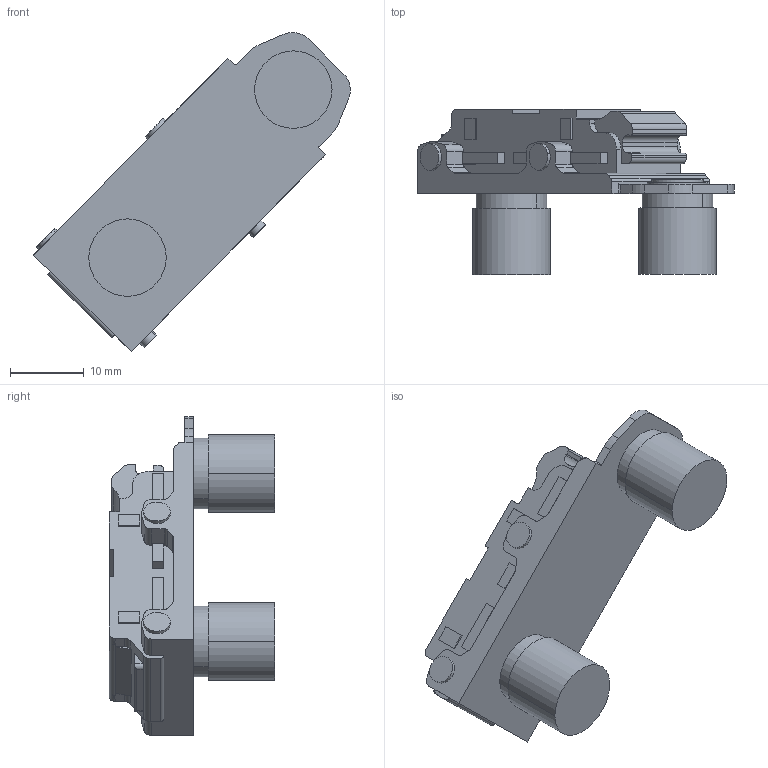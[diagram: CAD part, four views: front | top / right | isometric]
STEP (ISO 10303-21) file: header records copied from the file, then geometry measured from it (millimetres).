
FILE_DESCRIPTION (( 'STEP AP203' ), '1' );
FILE_NAME ('82H2MYQ-DTC 3D.STEP', '2024-07-11T02:26:15', ( '微软用户' ), ( '微软中国' ), 'SwSTEP 2.0', 'SolidWorks 2021', '' );
FILE_SCHEMA (( 'CONFIG_CONTROL_DESIGN' ));
Length unit declared in the file: millimetre
Products named in the file (1): 82H2MYQ-DTC 3D
Bounding box: 42.94 x 22.4 x 43.23 mm (x, y, z)
Volume: 7857.4 mm3; surface area: 3857.2 mm2
Topology: 1 solids, 1 shells, 224 faces, 615 edges, 412 vertices
Faces by surface type: plane 139, cylinder 81, bspline 4
Entity records: 7340 total; most frequent: CARTESIAN_POINT 1441, ORIENTED_EDGE 1230, DIRECTION 1198, EDGE_CURVE 615, LINE 436, VECTOR 436, VERTEX_POINT 412, AXIS2_PLACEMENT_3D 381
